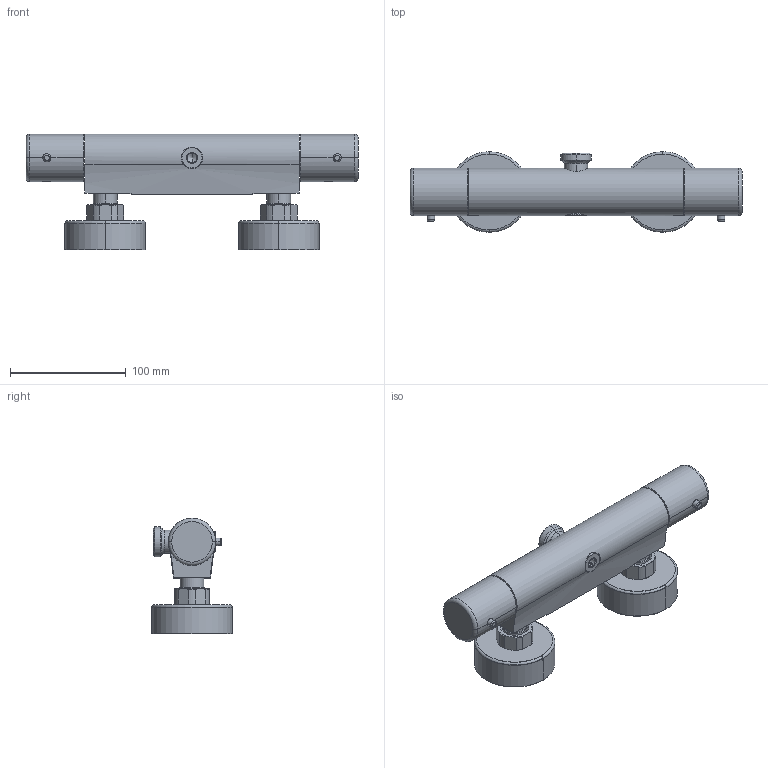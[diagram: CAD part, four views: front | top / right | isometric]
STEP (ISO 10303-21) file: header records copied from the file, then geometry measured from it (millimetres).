
FILE_DESCRIPTION((''),'2;1');
FILE_NAME('F4275_3','2024-10-02T12:12:05',('ivanv'),(''),'CREO PARAMETRIC BY PTC INC, 2021184','CREO PARAMETRIC BY PTC INC, 2021184','');
FILE_SCHEMA(('CONFIG_CONTROL_DESIGN'));
Length unit declared in the file: millimetre
Products named in the file (1): F4275_3
Bounding box: 286.9 x 69.5 x 100 mm (x, y, z)
Volume: 196446.2 mm3; surface area: 158550.9 mm2
Topology: 5 solids, 5 shells, 1791 faces, 4457 edges, 2735 vertices
Faces by surface type: plane 692, cylinder 419, torus 214, extrusion 158, cone 153, bspline 86, sphere 69
Entity records: 61644 total; most frequent: CARTESIAN_POINT 19995, ORIENTED_EDGE 8902, DIRECTION 8357, EDGE_CURVE 4451, AXIS2_PLACEMENT_3D 3060, VERTEX_POINT 2735, VECTOR 2237, LINE 2079
